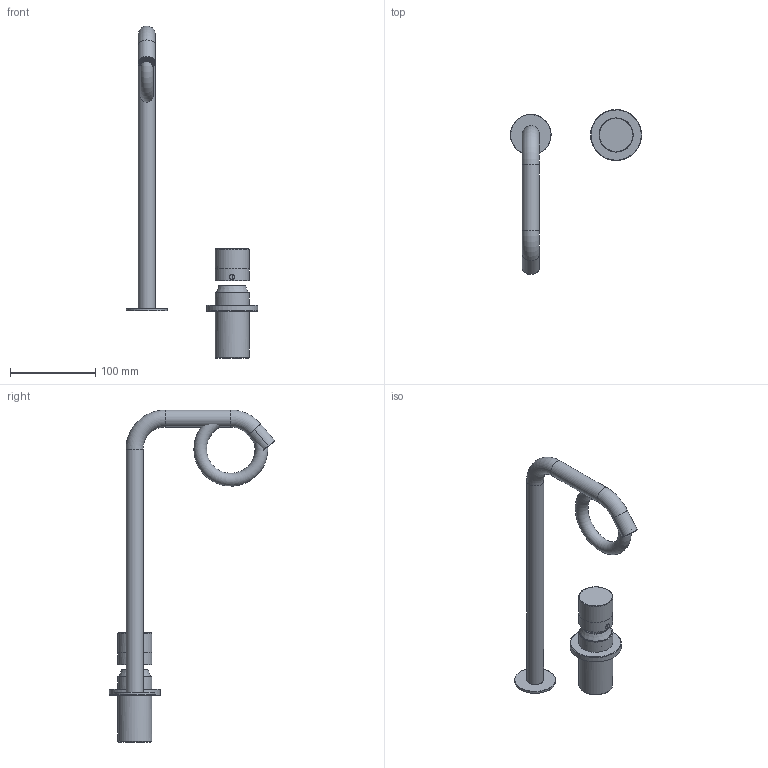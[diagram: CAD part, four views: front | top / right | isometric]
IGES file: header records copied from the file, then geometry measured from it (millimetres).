
Start section: Data from Parasolid IGES Translator 22.0.50, Copyright(c) 2006 Siemens P LM Software. All Rights Reserved.
Global section: file name: noorth-taps-H 33,5 D 18,8 W 14_2561-5841.igs; native system: By Siemens PLM Incorporated; preprocessor: XPlus GENERIC/IGES 22.0.50; author: Noname; organization: Noname; date: 20260215.164211; units: metre
Bounding box: 154.31 x 194.5 x 390.3 mm (x, y, z)
Volume: 238426.8 mm3; surface area: 99364.6 mm2
Topology: 6 solids, 6 shells, 433 faces, 1030 edges, 737 vertices
Faces by surface type: plane 173, cylinder 152, bspline 79, cone 24, torus 3, extrusion 1, revolution 1
Full cylindrical faces by diameter (mm): 1 x52, 13.5 x1, 14.5 x1, 15 x3, 16.5 x2, 20 x2, 23.6 x1, 30 x1, 35.2 x1, 36 x1, 37 x1, 40 x4, 48 x1, 60 x1
